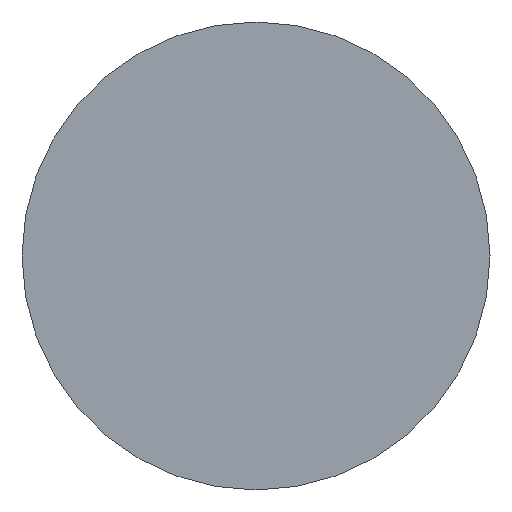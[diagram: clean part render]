
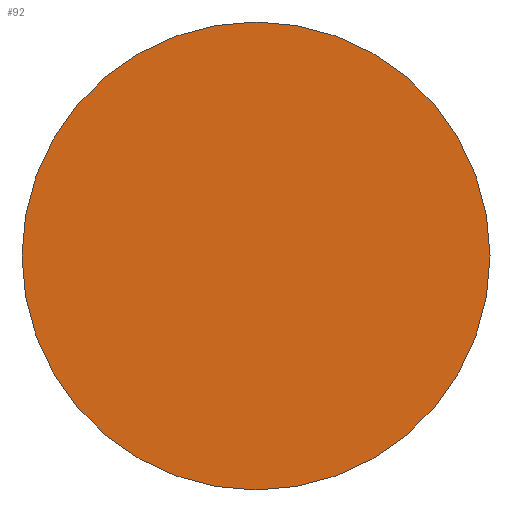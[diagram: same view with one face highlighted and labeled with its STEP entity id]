
A CAD part, left-side view. The second image highlights one B-rep face of the part: STEP entity #92.
In plain terms, the highlighted planar face has unit normal (-1, 0, 0).
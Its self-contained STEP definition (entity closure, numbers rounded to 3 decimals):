
#28 = CARTESIAN_POINT ( 'NONE',  ( 0., -7., 0. ) ) ;
#38 = ORIENTED_EDGE ( 'NONE', *, *, #231, .F. ) ;
#52 = DIRECTION ( 'NONE',  ( 0., -1., 0. ) ) ;
#61 = PLANE ( 'NONE',  #158 ) ;
#74 = VERTEX_POINT ( 'NONE', #208 ) ;
#76 = FACE_OUTER_BOUND ( 'NONE', #120, .T. ) ;
#87 = DIRECTION ( 'NONE',  ( 0., 1., 0. ) ) ;
#91 = VERTEX_POINT ( 'NONE', #28 ) ;
#92 = ADVANCED_FACE ( 'NONE', ( #76 ), #61, .T. ) ;
#95 = CIRCLE ( 'NONE', #105, 7. ) ;
#104 = DIRECTION ( 'NONE',  ( -1., 0., 0. ) ) ;
#105 = AXIS2_PLACEMENT_3D ( 'NONE', #171, #190, #212 ) ;
#120 = EDGE_LOOP ( 'NONE', ( #177, #38 ) ) ;
#144 = CARTESIAN_POINT ( 'NONE',  ( 0., 0., 0. ) ) ;
#158 = AXIS2_PLACEMENT_3D ( 'NONE', #144, #104, #52 ) ;
#171 = CARTESIAN_POINT ( 'NONE',  ( 0., 0., 0. ) ) ;
#177 = ORIENTED_EDGE ( 'NONE', *, *, #247, .F. ) ;
#190 = DIRECTION ( 'NONE',  ( 1., 0., 0. ) ) ;
#198 = CIRCLE ( 'NONE', #270, 7. ) ;
#208 = CARTESIAN_POINT ( 'NONE',  ( 0., 7., 0. ) ) ;
#212 = DIRECTION ( 'NONE',  ( 0., 1., 0. ) ) ;
#213 = CARTESIAN_POINT ( 'NONE',  ( 0., 0., 0. ) ) ;
#231 = EDGE_CURVE ( 'NONE', #91, #74, #198, .T. ) ;
#234 = DIRECTION ( 'NONE',  ( 1., 0., 0. ) ) ;
#247 = EDGE_CURVE ( 'NONE', #74, #91, #95, .T. ) ;
#270 = AXIS2_PLACEMENT_3D ( 'NONE', #213, #234, #87 ) ;
